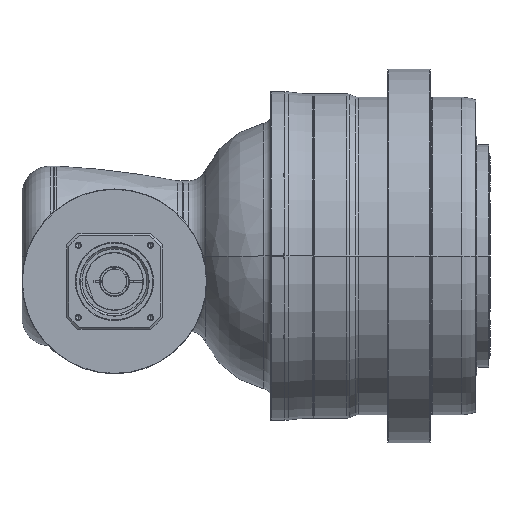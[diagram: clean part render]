
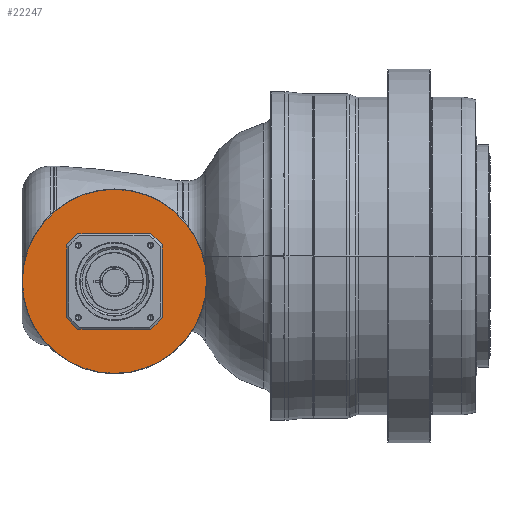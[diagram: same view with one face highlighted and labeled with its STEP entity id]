
A CAD part, front view. The second image highlights one B-rep face of the part: STEP entity #22247.
In plain terms, the highlighted planar face has unit normal (0, -1, 0) as drawn and (1, 0, 0) by its records, which use the part's own axes.
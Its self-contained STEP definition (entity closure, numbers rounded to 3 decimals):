
#20936=CARTESIAN_POINT('',(-3.5,0.,0.));
#20937=DIRECTION('',(-1.,0.,0.));
#20938=DIRECTION('',(0.,-1.,0.));
#20939=AXIS2_PLACEMENT_3D('',#20936,#20937,#20938);
#20941=CARTESIAN_POINT('',(-3.5,0.,0.));
#20942=DIRECTION('',(-1.,0.,0.));
#20943=DIRECTION('',(0.,1.,0.));
#20944=AXIS2_PLACEMENT_3D('',#20941,#20942,#20943);
#20946=CARTESIAN_POINT('',(-3.5,0.,0.));
#20947=DIRECTION('',(-1.,0.,0.));
#20948=DIRECTION('',(0.,-1.,0.));
#20949=AXIS2_PLACEMENT_3D('',#20946,#20947,#20948);
#20951=CARTESIAN_POINT('',(-3.5,0.,0.));
#20952=DIRECTION('',(-1.,0.,0.));
#20953=DIRECTION('',(0.,1.,0.));
#20954=AXIS2_PLACEMENT_3D('',#20951,#20952,#20953);
#21210=CARTESIAN_POINT('',(-3.5,-130.5,0.));
#21211=CARTESIAN_POINT('',(-3.5,130.5,0.));
#21212=VERTEX_POINT('',#21210);
#21213=VERTEX_POINT('',#21211);
#21226=CARTESIAN_POINT('',(-3.5,-68.,0.));
#21227=CARTESIAN_POINT('',(-3.5,68.,0.));
#21228=VERTEX_POINT('',#21226);
#21229=VERTEX_POINT('',#21227);
#22232=CARTESIAN_POINT('',(-3.5,0.,0.));
#22233=DIRECTION('',(1.,0.,0.));
#22234=DIRECTION('',(0.,-1.,0.));
#22235=AXIS2_PLACEMENT_3D('',#22232,#22233,#22234);
#22236=PLANE('',#22235);
#22237=ORIENTED_EDGE('',*,*,#22188,.T.);
#22238=ORIENTED_EDGE('',*,*,#22173,.T.);
#22239=EDGE_LOOP('',(#22237,#22238));
#22240=FACE_OUTER_BOUND('',#22239,.F.);
#22242=ORIENTED_EDGE('',*,*,#22241,.F.);
#22244=ORIENTED_EDGE('',*,*,#22243,.F.);
#22245=EDGE_LOOP('',(#22242,#22244));
#22246=FACE_BOUND('',#22245,.F.);
#22247=ADVANCED_FACE('',(#22240,#22246),#22236,.T.);
#20940=CIRCLE('',#20939,68.);
#20945=CIRCLE('',#20944,68.);
#20950=CIRCLE('',#20949,130.5);
#20955=CIRCLE('',#20954,130.5);
#22173=EDGE_CURVE('',#21213,#21212,#20955,.T.);
#22188=EDGE_CURVE('',#21212,#21213,#20950,.T.);
#22241=EDGE_CURVE('',#21228,#21229,#20940,.T.);
#22243=EDGE_CURVE('',#21229,#21228,#20945,.T.);
